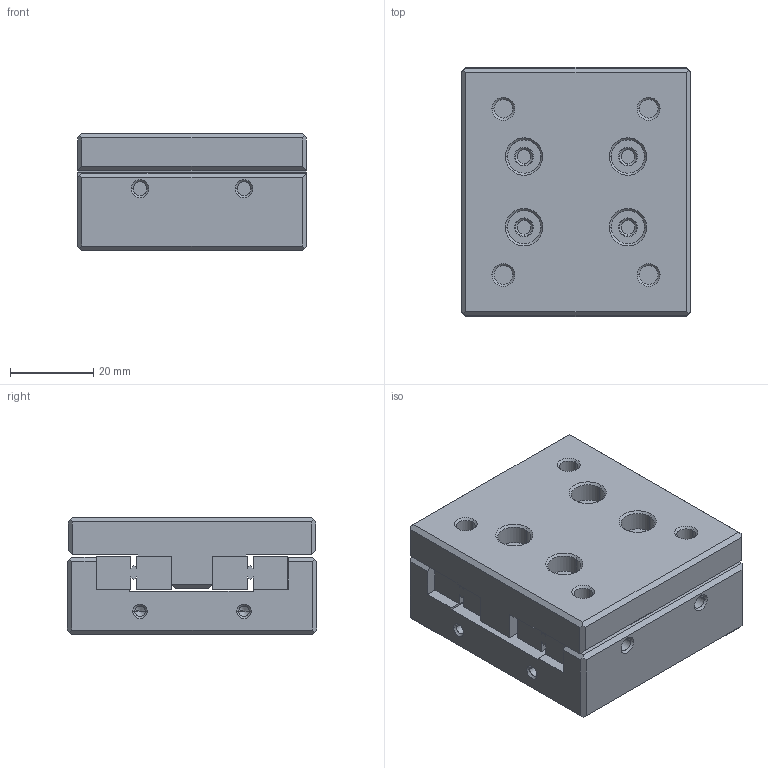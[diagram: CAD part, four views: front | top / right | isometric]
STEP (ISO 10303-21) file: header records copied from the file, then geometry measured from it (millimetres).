
FILE_DESCRIPTION((''),'2;1');
FILE_NAME('CRU3055_ASM','2017-01-24T',('Administrator'),(''),'PRO/ENGINEER BY PARAMETRIC TECHNOLOGY CORPORATION, 2013150','PRO/ENGINEER BY PARAMETRIC TECHNOLOGY CORPORATION, 2013150','');
FILE_SCHEMA(('CONFIG_CONTROL_DESIGN'));
Length unit declared in the file: millimetre
Products named in the file (4): CRU3055-01; CRU3080-GV3050; CRU3055-02; CRU3055_ASM
Assembly tree (4 placements, depth 2):
  CRU3055_ASM
    CRU3055-01
    CRU3080-GV3050  x2
    CRU3055-02
Bounding box: 55 x 60 x 28 mm (x, y, z)
Volume: 80166 mm3; surface area: 31072.4 mm2
Topology: 4 solids, 4 shells, 342 faces, 802 edges, 484 vertices
Faces by surface type: cone 126, plane 112, cylinder 104
Entity records: 8366 total; most frequent: DIRECTION 1542, CARTESIAN_POINT 1376, ORIENTED_EDGE 1340, EDGE_CURVE 670, AXIS2_PLACEMENT_3D 574, VERTEX_POINT 408, VECTOR 394, LINE 394
